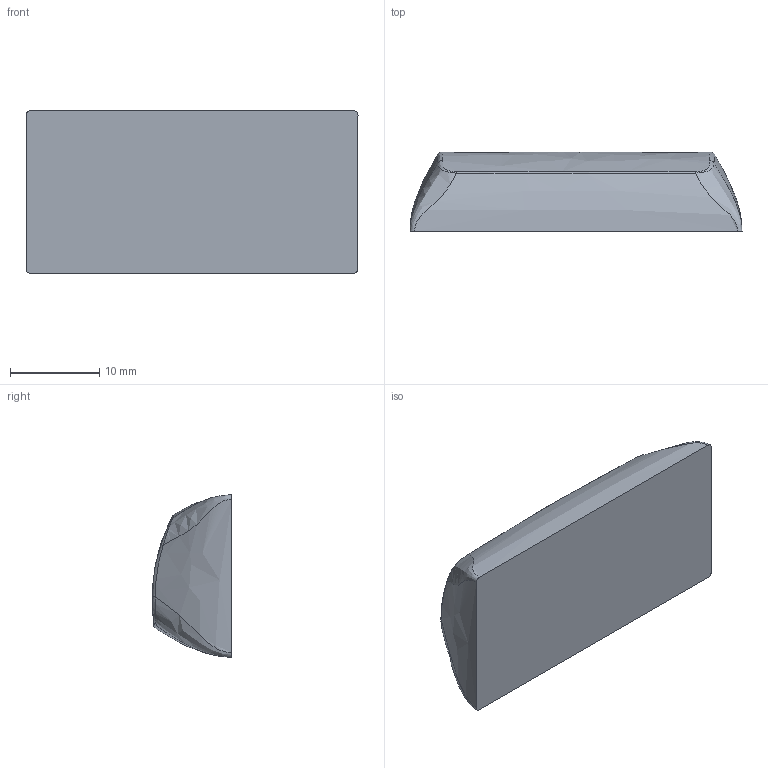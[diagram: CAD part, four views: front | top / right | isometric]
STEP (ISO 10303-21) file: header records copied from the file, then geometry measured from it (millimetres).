
FILE_DESCRIPTION (( 'STEP AP203' ), '1' );
FILE_NAME ('R4_Spacebar_2U_v3.2_GMK.STEP', '2023-03-07T11:14:11', ( '' ), ( '' ), 'SwSTEP 2.0', 'SolidWorks 2022', '' );
FILE_SCHEMA (( 'CONFIG_CONTROL_DESIGN' ));
Length unit declared in the file: millimetre
Products named in the file (1): R4_Spacebar_2U_v3.2_GMK
Bounding box: 37.25 x 8.96 x 18.2 mm (x, y, z)
Volume: 4657 mm3; surface area: 1918.8 mm2
Topology: 1 solids, 1 shells, 18 faces, 40 edges, 24 vertices
Faces by surface type: bspline 17, plane 1
Entity records: 2880 total; most frequent: CARTESIAN_POINT 2549, ORIENTED_EDGE 80, EDGE_CURVE 40, B_SPLINE_CURVE_WITH_KNOTS 28, VERTEX_POINT 24, ADVANCED_FACE 18, EDGE_LOOP 18, FACE_OUTER_BOUND 18
